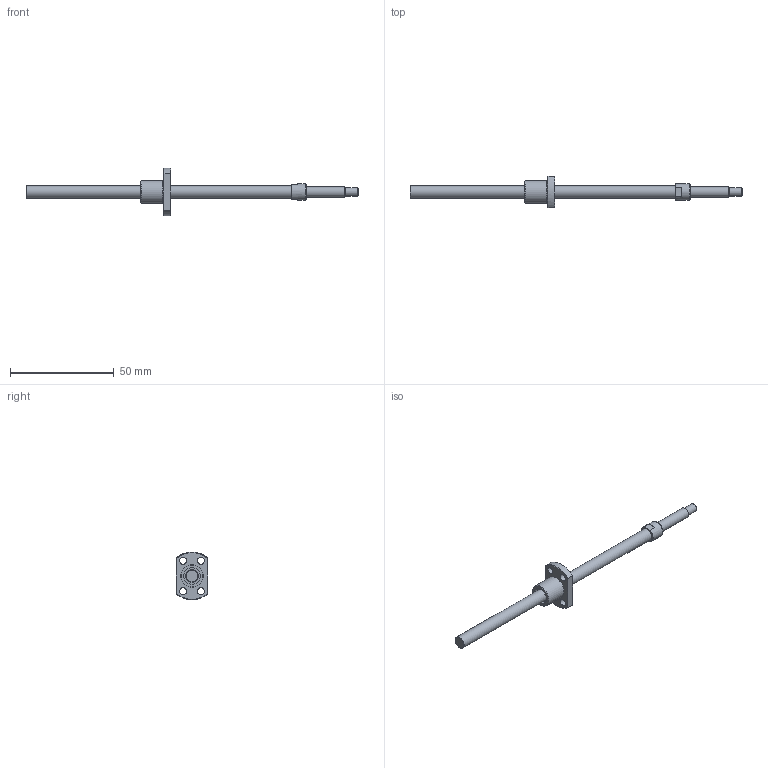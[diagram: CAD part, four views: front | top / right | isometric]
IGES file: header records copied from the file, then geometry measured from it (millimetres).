
Start section: Data from Parasolid IGES Translator 26.0.171, Copyright(c) 2006 Siemens PLM Software. All Rights Reserved.
Global section: file name: BNK0601-3G0+160LC5Y(69.75).igs; native system: By Siemens PLM Incorporated; preprocessor: XPlus GENERIC/IGES 26.0.171; author: Noname; organization: Noname; date: 20240709.081626; units: millimetre
Bounding box: 160 x 15 x 23 mm (x, y, z)
Surface area: 4636.8 mm2 (no closed solid volume)
Topology: 0 solids, 0 shells, 45 faces, 202 edges, 175 vertices
Faces by surface type: revolution 28, extrusion 17
